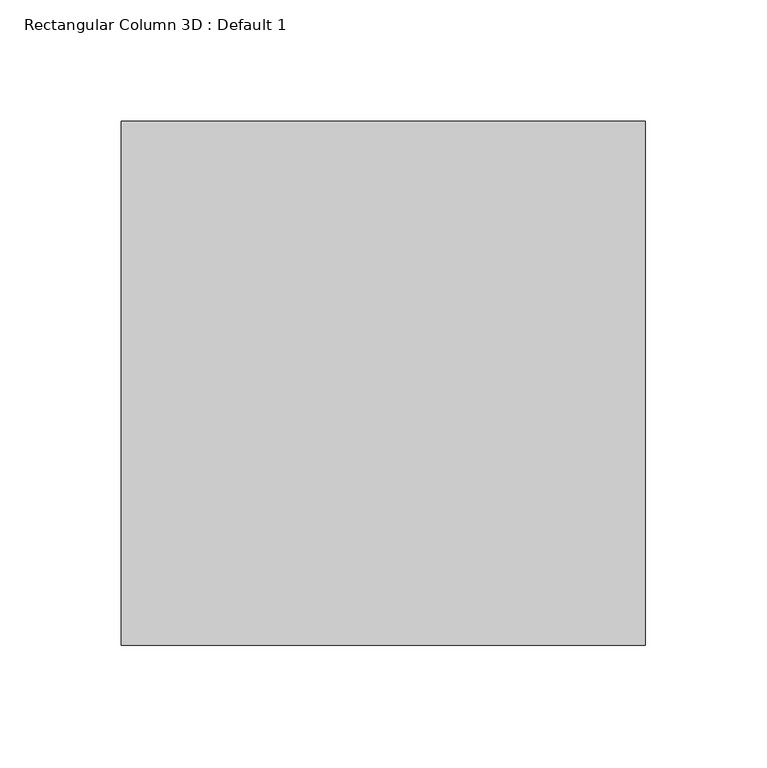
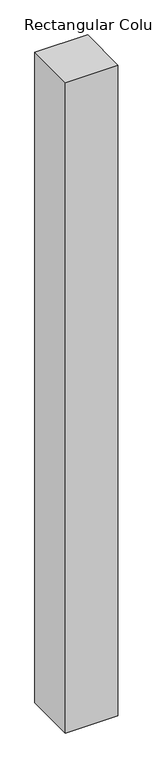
"""IFC4 building model written with IfcOpenShell, lengths in millimetres: column geometry, Rectangular Column 3D : Default 1."""

from ifc_helpers import new_model, si_unit, origin, origin_with_axes, place, context, project, spatial, polyline, outline, extrude, source, transform, mapped, element, save


def rectangular_column_3d_default_1_58d3c51b(model_context):
    return source(origin(), model_context, "Body", "SweptSolid", [
        extrude(outline(polyline([(215.9, 215.9), (215.9, 0.0), (0.0, 0.0), (0.0, 215.9), (215.9, 215.9)])), origin_with_axes(), (0.0, 0.0, 1.0), 2819.4),
    ])


if __name__ == "__main__":
    model = new_model("IFC4")
    model_context = context("Model", 3, world=origin())
    ifc_project = project(units=[si_unit("LENGTHUNIT", "METRE", prefix="MILLI")], contexts=[model_context])
    site = spatial("IfcSite", under=ifc_project)
    building = spatial("IfcBuilding", under=site)
    placement = place(None, origin())
    rectangular_column_3d_default_1_shape = rectangular_column_3d_default_1_58d3c51b(model_context)
    element("IfcColumn", 1, ObjectType="Rectangular Column 3D : Default 1", at=placement, inside=building, context=model_context, shape_type="MappedRepresentation", body=[
        mapped(rectangular_column_3d_default_1_shape, transform((0.0, 0.0, 0.0), x_axis=(1.0, 0.0, 0.0), y_axis=(0.0, 1.0, 0.0), z_axis=(0.0, 0.0, 1.0))),
    ])
    save(model, "model.ifc")
